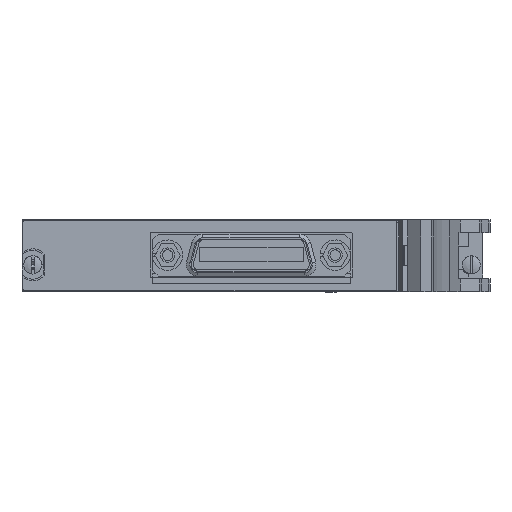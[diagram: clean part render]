
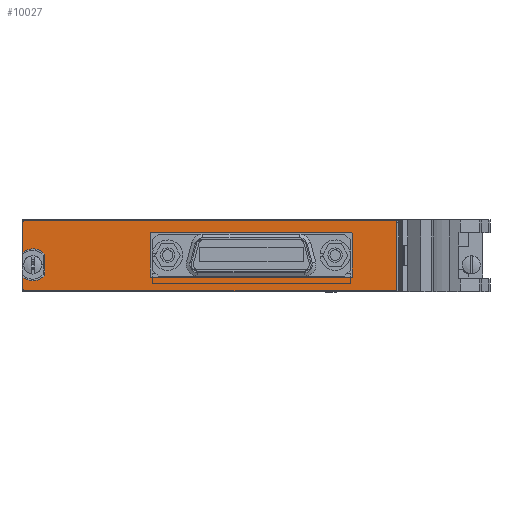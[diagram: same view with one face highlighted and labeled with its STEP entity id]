
A CAD part, left-side view. The second image highlights one B-rep face of the part: STEP entity #10027.
In plain terms, the highlighted planar face has unit normal (-1, 0, 0).
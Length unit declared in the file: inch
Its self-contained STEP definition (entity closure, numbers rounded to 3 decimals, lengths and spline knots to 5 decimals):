
#9668=CARTESIAN_POINT('',(-0.215,0.527,0.665));
#9669=DIRECTION('',(-1.,0.,0.));
#9670=DIRECTION('',(0.,0.,1.));
#9671=AXIS2_PLACEMENT_3D('',#9668,#9669,#9670);
#9673=DIRECTION('',(0.,1.,0.));
#9674=VECTOR('',#9673,4.07);
#9675=CARTESIAN_POINT('',(-0.215,-3.543,0.685));
#9676=LINE('',#9675,#9674);
#9677=CARTESIAN_POINT('',(-0.215,-3.543,0.665));
#9678=DIRECTION('',(-1.,0.,0.));
#9679=DIRECTION('',(0.,-1.,0.));
#9680=AXIS2_PLACEMENT_3D('',#9677,#9678,#9679);
#9682=DIRECTION('',(0.,0.,-1.));
#9683=VECTOR('',#9682,0.728);
#9684=CARTESIAN_POINT('',(-0.215,-3.563,0.665));
#9685=LINE('',#9684,#9683);
#9686=CARTESIAN_POINT('',(-0.215,-3.543,-0.063));
#9687=DIRECTION('',(-1.,0.,0.));
#9688=DIRECTION('',(0.,0.,-1.));
#9689=AXIS2_PLACEMENT_3D('',#9686,#9687,#9688);
#9691=DIRECTION('',(0.,-1.,0.));
#9692=VECTOR('',#9691,4.07);
#9693=CARTESIAN_POINT('',(-0.215,0.527,-0.083));
#9694=LINE('',#9693,#9692);
#9695=CARTESIAN_POINT('',(-0.215,0.527,-0.063));
#9696=DIRECTION('',(-1.,0.,0.));
#9697=DIRECTION('',(0.,1.,0.));
#9698=AXIS2_PLACEMENT_3D('',#9695,#9696,#9697);
#9700=DIRECTION('',(0.,0.,-1.));
#9701=VECTOR('',#9700,0.1263);
#9702=CARTESIAN_POINT('',(-0.215,0.547,0.0633));
#9703=LINE('',#9702,#9701);
#9704=CARTESIAN_POINT('',(-0.215,0.439,0.201));
#9705=DIRECTION('',(-1.,0.,0.));
#9706=DIRECTION('',(0.,0.617,-0.787));
#9707=AXIS2_PLACEMENT_3D('',#9704,#9705,#9706);
#9709=DIRECTION('',(0.,0.,1.));
#9710=VECTOR('',#9709,0.22747);
#9711=CARTESIAN_POINT('',(-0.215,0.306,0.08726));
#9712=LINE('',#9711,#9710);
#9713=CARTESIAN_POINT('',(-0.215,0.439,0.201));
#9714=DIRECTION('',(-1.,0.,0.));
#9715=DIRECTION('',(0.,-0.76,0.65));
#9716=AXIS2_PLACEMENT_3D('',#9713,#9714,#9715);
#9718=DIRECTION('',(0.,0.,-1.));
#9719=VECTOR('',#9718,0.3263);
#9720=CARTESIAN_POINT('',(-0.215,0.547,0.665));
#9721=LINE('',#9720,#9719);
#9722=CARTESIAN_POINT('',(-0.215,-0.873,0.076));
#9723=DIRECTION('',(-1.,0.,0.));
#9724=DIRECTION('',(0.,1.,0.));
#9725=AXIS2_PLACEMENT_3D('',#9722,#9723,#9724);
#9727=DIRECTION('',(0.,-1.,0.));
#9728=VECTOR('',#9727,2.18);
#9729=CARTESIAN_POINT('',(-0.215,-0.873,0.056));
#9730=LINE('',#9729,#9728);
#9731=CARTESIAN_POINT('',(-0.215,-3.053,0.076));
#9732=DIRECTION('',(-1.,0.,0.));
#9733=DIRECTION('',(0.,0.,-1.));
#9734=AXIS2_PLACEMENT_3D('',#9731,#9732,#9733);
#9736=DIRECTION('',(0.,0.,1.));
#9737=VECTOR('',#9736,0.461);
#9738=CARTESIAN_POINT('',(-0.215,-3.073,0.076));
#9739=LINE('',#9738,#9737);
#9740=CARTESIAN_POINT('',(-0.215,-3.053,0.537));
#9741=DIRECTION('',(-1.,0.,0.));
#9742=DIRECTION('',(0.,-1.,0.));
#9743=AXIS2_PLACEMENT_3D('',#9740,#9741,#9742);
#9745=DIRECTION('',(0.,1.,0.));
#9746=VECTOR('',#9745,2.18);
#9747=CARTESIAN_POINT('',(-0.215,-3.053,0.557));
#9748=LINE('',#9747,#9746);
#9749=CARTESIAN_POINT('',(-0.215,-0.873,0.537));
#9750=DIRECTION('',(-1.,0.,0.));
#9751=DIRECTION('',(0.,0.,1.));
#9752=AXIS2_PLACEMENT_3D('',#9749,#9750,#9751);
#9754=DIRECTION('',(0.,0.,-1.));
#9755=VECTOR('',#9754,0.461);
#9756=CARTESIAN_POINT('',(-0.215,-0.853,0.537));
#9757=LINE('',#9756,#9755);
#9922=CARTESIAN_POINT('',(-0.215,0.527,0.685));
#9923=CARTESIAN_POINT('',(-0.215,0.547,0.665));
#9924=VERTEX_POINT('',#9922);
#9925=VERTEX_POINT('',#9923);
#9926=CARTESIAN_POINT('',(-0.215,0.547,0.3387));
#9927=VERTEX_POINT('',#9926);
#9928=CARTESIAN_POINT('',(-0.215,0.306,0.31474));
#9929=VERTEX_POINT('',#9928);
#9930=CARTESIAN_POINT('',(-0.215,0.306,0.08726));
#9931=VERTEX_POINT('',#9930);
#9932=CARTESIAN_POINT('',(-0.215,0.547,0.0633));
#9933=VERTEX_POINT('',#9932);
#9934=CARTESIAN_POINT('',(-0.215,0.547,-0.063));
#9935=VERTEX_POINT('',#9934);
#9936=CARTESIAN_POINT('',(-0.215,0.527,-0.083));
#9937=VERTEX_POINT('',#9936);
#9938=CARTESIAN_POINT('',(-0.215,-3.543,-0.083));
#9939=VERTEX_POINT('',#9938);
#9940=CARTESIAN_POINT('',(-0.215,-3.563,-0.063));
#9941=VERTEX_POINT('',#9940);
#9942=CARTESIAN_POINT('',(-0.215,-3.563,0.665));
#9943=VERTEX_POINT('',#9942);
#9944=CARTESIAN_POINT('',(-0.215,-3.543,0.685));
#9945=VERTEX_POINT('',#9944);
#9962=CARTESIAN_POINT('',(-0.215,-0.853,0.076));
#9963=CARTESIAN_POINT('',(-0.215,-0.873,0.056));
#9964=VERTEX_POINT('',#9962);
#9965=VERTEX_POINT('',#9963);
#9966=CARTESIAN_POINT('',(-0.215,-3.053,0.056));
#9967=VERTEX_POINT('',#9966);
#9968=CARTESIAN_POINT('',(-0.215,-3.073,0.076));
#9969=VERTEX_POINT('',#9968);
#9970=CARTESIAN_POINT('',(-0.215,-3.073,0.537));
#9971=VERTEX_POINT('',#9970);
#9972=CARTESIAN_POINT('',(-0.215,-3.053,0.557));
#9973=VERTEX_POINT('',#9972);
#9974=CARTESIAN_POINT('',(-0.215,-0.873,0.557));
#9975=VERTEX_POINT('',#9974);
#9976=CARTESIAN_POINT('',(-0.215,-0.853,0.537));
#9977=VERTEX_POINT('',#9976);
#9978=CARTESIAN_POINT('',(-0.215,0.439,0.201));
#9979=DIRECTION('',(-1.,0.,0.));
#9980=DIRECTION('',(0.,0.,1.));
#9981=AXIS2_PLACEMENT_3D('',#9978,#9979,#9980);
#9982=PLANE('',#9981);
#9984=ORIENTED_EDGE('',*,*,#9983,.F.);
#9986=ORIENTED_EDGE('',*,*,#9985,.F.);
#9988=ORIENTED_EDGE('',*,*,#9987,.F.);
#9990=ORIENTED_EDGE('',*,*,#9989,.T.);
#9992=ORIENTED_EDGE('',*,*,#9991,.F.);
#9994=ORIENTED_EDGE('',*,*,#9993,.F.);
#9996=ORIENTED_EDGE('',*,*,#9995,.F.);
#9998=ORIENTED_EDGE('',*,*,#9997,.F.);
#10000=ORIENTED_EDGE('',*,*,#9999,.T.);
#10002=ORIENTED_EDGE('',*,*,#10001,.T.);
#10004=ORIENTED_EDGE('',*,*,#10003,.T.);
#10006=ORIENTED_EDGE('',*,*,#10005,.F.);
#10007=EDGE_LOOP('',(#9984,#9986,#9988,#9990,#9992,#9994,#9996,#9998,#10000,
#10002,#10004,#10006));
#10008=FACE_OUTER_BOUND('',#10007,.F.);
#10010=ORIENTED_EDGE('',*,*,#10009,.T.);
#10012=ORIENTED_EDGE('',*,*,#10011,.T.);
#10014=ORIENTED_EDGE('',*,*,#10013,.T.);
#10016=ORIENTED_EDGE('',*,*,#10015,.T.);
#10018=ORIENTED_EDGE('',*,*,#10017,.T.);
#10020=ORIENTED_EDGE('',*,*,#10019,.T.);
#10022=ORIENTED_EDGE('',*,*,#10021,.T.);
#10024=ORIENTED_EDGE('',*,*,#10023,.T.);
#10025=EDGE_LOOP('',(#10010,#10012,#10014,#10016,#10018,#10020,#10022,#10024));
#10026=FACE_BOUND('',#10025,.F.);
#10027=ADVANCED_FACE('',(#10008,#10026),#9982,.T.);
#9672=CIRCLE('',#9671,0.02);
#9681=CIRCLE('',#9680,0.02);
#9690=CIRCLE('',#9689,0.02);
#9699=CIRCLE('',#9698,0.02);
#9708=CIRCLE('',#9707,0.175);
#9717=CIRCLE('',#9716,0.175);
#9726=CIRCLE('',#9725,0.02);
#9735=CIRCLE('',#9734,0.02);
#9744=CIRCLE('',#9743,0.02);
#9753=CIRCLE('',#9752,0.02);
#9983=EDGE_CURVE('',#9924,#9925,#9672,.T.);
#9985=EDGE_CURVE('',#9945,#9924,#9676,.T.);
#9987=EDGE_CURVE('',#9943,#9945,#9681,.T.);
#9989=EDGE_CURVE('',#9943,#9941,#9685,.T.);
#9991=EDGE_CURVE('',#9939,#9941,#9690,.T.);
#9993=EDGE_CURVE('',#9937,#9939,#9694,.T.);
#9995=EDGE_CURVE('',#9935,#9937,#9699,.T.);
#9997=EDGE_CURVE('',#9933,#9935,#9703,.T.);
#9999=EDGE_CURVE('',#9933,#9931,#9708,.T.);
#10001=EDGE_CURVE('',#9931,#9929,#9712,.T.);
#10003=EDGE_CURVE('',#9929,#9927,#9717,.T.);
#10005=EDGE_CURVE('',#9925,#9927,#9721,.T.);
#10009=EDGE_CURVE('',#9964,#9965,#9726,.T.);
#10011=EDGE_CURVE('',#9965,#9967,#9730,.T.);
#10013=EDGE_CURVE('',#9967,#9969,#9735,.T.);
#10015=EDGE_CURVE('',#9969,#9971,#9739,.T.);
#10017=EDGE_CURVE('',#9971,#9973,#9744,.T.);
#10019=EDGE_CURVE('',#9973,#9975,#9748,.T.);
#10021=EDGE_CURVE('',#9975,#9977,#9753,.T.);
#10023=EDGE_CURVE('',#9977,#9964,#9757,.T.);
